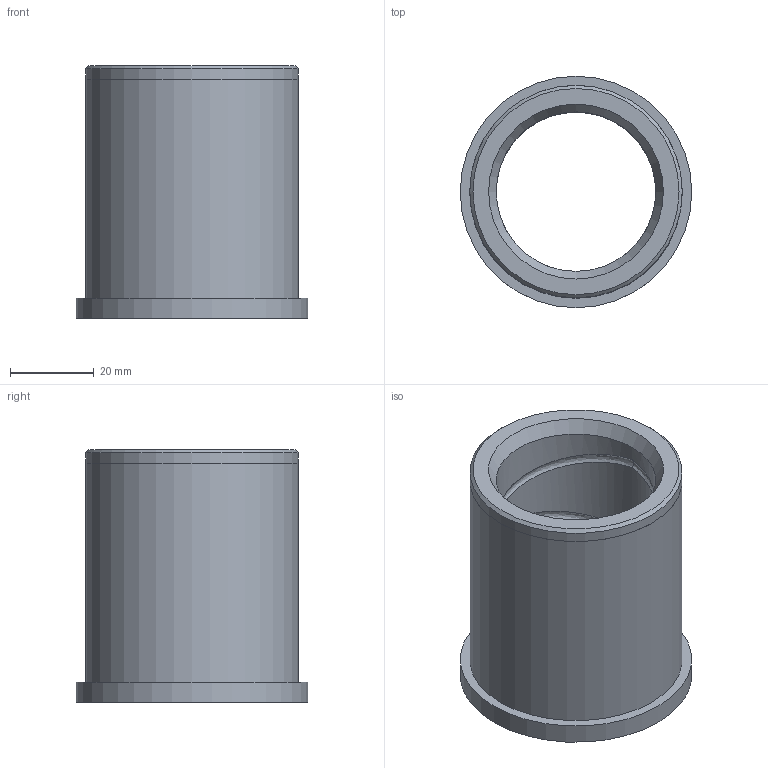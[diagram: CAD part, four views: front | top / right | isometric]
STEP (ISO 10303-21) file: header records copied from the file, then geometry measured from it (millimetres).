
FILE_DESCRIPTION (( 'STEP AP214' ), '1' );
FILE_NAME ('SBF 12-23.step', '2023-05-30T15:48:32', ( '' ), ( '' ), 'SwSTEP 2.0', 'SolidWorks 2017', '' );
FILE_SCHEMA (( 'AUTOMOTIVE_DESIGN' ));
Length unit declared in the file: inch
Products named in the file (1): SBF 12-23
Bounding box: 55.3 x 55.3 x 60.33 mm (x, y, z)
Volume: 54340.5 mm3; surface area: 19268.1 mm2
Topology: 1 solids, 1 shells, 23 faces, 49 edges, 30 vertices
Faces by surface type: cylinder 8, bspline 8, plane 4, cone 3
Full cylindrical faces by diameter (mm): 38.113 x2, 50.775 x1, 50.813 x1, 55.296 x1
Entity records: 3482 total; most frequent: CARTESIAN_POINT 3071, ORIENTED_EDGE 82, DIRECTION 58, EDGE_CURVE 41, EDGE_LOOP 35, VERTEX_POINT 30, AXIS2_PLACEMENT_3D 29, FACE_OUTER_BOUND 28
